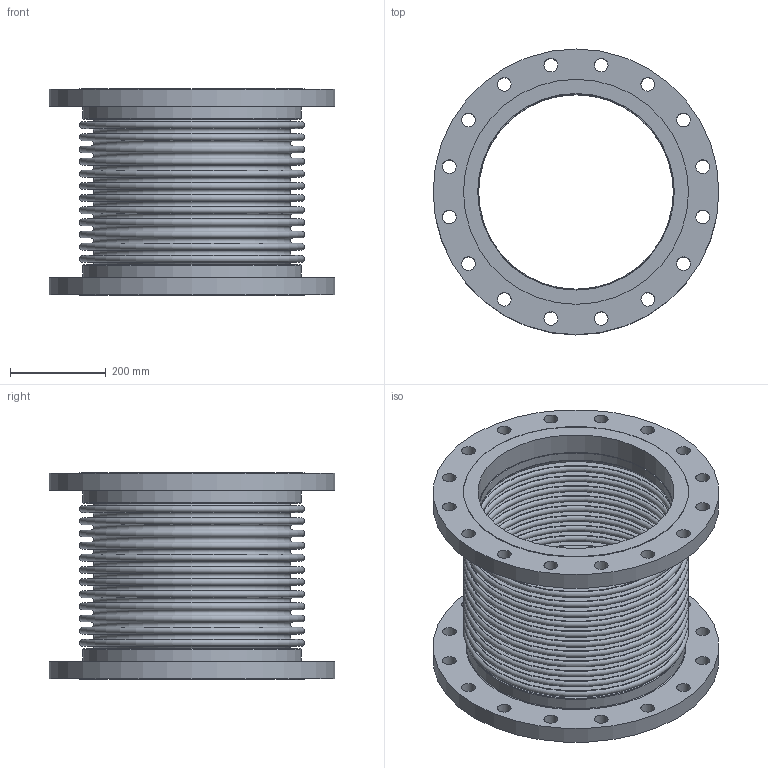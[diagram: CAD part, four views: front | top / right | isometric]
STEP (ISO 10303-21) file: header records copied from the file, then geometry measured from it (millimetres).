
FILE_DESCRIPTION(/* description */ ('EXPANSION JOINT,SINGLE, FLANGED ENDS,16 INCH','CAx-IF Rec.Pracs.---Representation and Presentation of Product Manufacturing Information (PMI)---4.0---2014-10-13'),/* implementation_level */ '2;1');
FILE_NAME(/* name */ 'US-16-12-150L-FLANGED ENDS.stp',/* time_stamp */ '2026-07-31T17:33:47-05:00',/* author */ ('Guadalupe'),/* organization */ (''),/* preprocessor_version */ 'ST-DEVELOPER v20.1',/* originating_system */ 'Autodesk Inventor 2026',/* authorisation */ '');
FILE_SCHEMA (('AP242_MANAGED_MODEL_BASED_3D_ENGINEERING_MIM_LF { 1 0 10303 442 2 1 4 }'));
Length unit declared in the file: inch
Products named in the file (3): 16-150L; 16-150L-02; 16-150L-01
Assembly tree (3 placements, depth 2):
  16-150L
    16-150L-02  x2
    16-150L-01
Bounding box: 596.9 x 596.9 x 431.8 mm (x, y, z)
Volume: 13422759.7 mm3; surface area: 3608388.6 mm2
Topology: 5 solids, 5 shells, 160 faces, 294 edges, 196 vertices
Faces by surface type: plane 62, torus 54, cylinder 44
Full cylindrical faces by diameter (mm): 28.575 x32, 406.4 x2, 409.448 x2, 410.464 x2, 457.2 x2, 469.9 x2, 596.9 x2
Entity records: 3606 total; most frequent: DIRECTION 738, CARTESIAN_POINT 537, ORIENTED_EDGE 456, AXIS2_PLACEMENT_3D 357, EDGE_CURVE 228, EDGE_LOOP 224, CIRCLE 204, VERTEX_POINT 152
